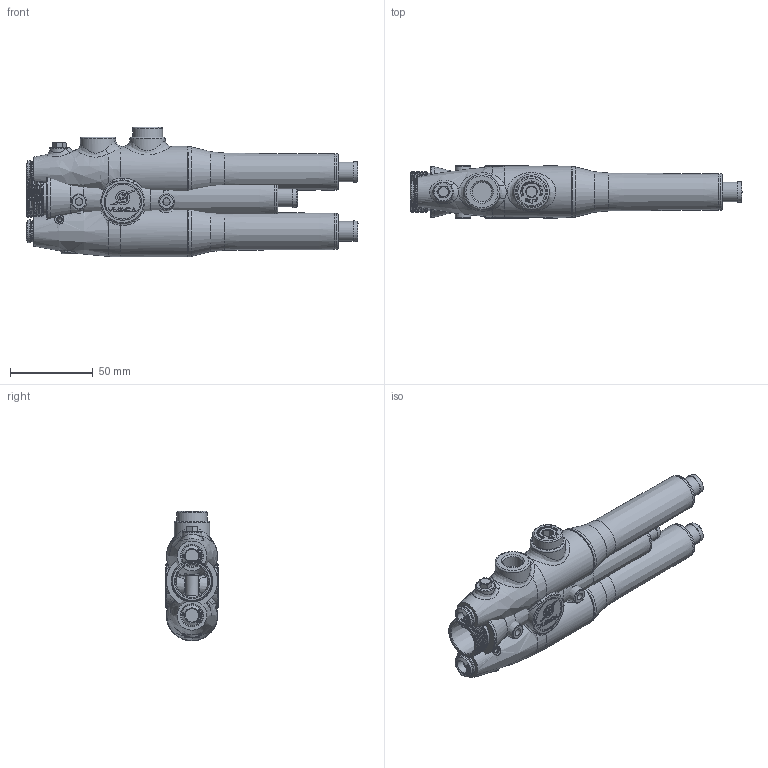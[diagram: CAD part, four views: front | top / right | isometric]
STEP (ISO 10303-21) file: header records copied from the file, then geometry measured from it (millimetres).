
FILE_DESCRIPTION( ( 'Unknown' ), '1' );
FILE_NAME( 'X:/±è¿µ¿î/Green Pump/VC253 Pump-6/GH53F-DIM.stp', 'Unknown', ( 'Unknown' ), ( 'Unknown' ), 'PSStep 10.0', 'Unknown', ' ' );
FILE_SCHEMA( ( 'AUTOMOTIVE_DESIGN { 1 0 10303 214 1 1 1 1 }' ) );
Length unit declared in the file: millimetre
Products named in the file (9): Filter-ass'y-(DIM)asm; Assem1; Silencer Cover-253(Åõã; Silencer Cover End Cap-253(癱; cartridge fitting(8); M5-Plug; Logo cover(253); Body(Double)-253-DIM; Plug14_New_PPS(dim)
Bounding box: 201.2 x 32 x 78.7 mm (x, y, z)
Volume: 318325.8 mm3; surface area: 139469.8 mm2
Topology: 20 solids, 24 shells, 2085 faces, 4949 edges, 3161 vertices
Faces by surface type: plane 879, bspline 407, cylinder 366, cone 186, torus 143, extrusion 54, sphere 48, revolution 2
Full cylindrical faces by diameter (mm): 0.681 x2, 0.858 x3, 1.565 x8, 2.505 x8, 2.8 x4, 3.2 x2, 4 x2, 4.2 x4, 4.5 x4, 5 x2, 8.2 x3, 9 x4, 10 x3, 10.1 x3, 11.4 x4, 11.9 x7, 12 x4, 12.1 x13, 12.4 x4, 14 x3, 16.5 x2, 18.2 x2, 19 x20, 21.1 x3, 21.475 x4, 22 x4, 22.5 x11, 23.5 x4, 25.2 x4, 31 x8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
Entity records: 49905 total; most frequent: CARTESIAN_POINT 26084, ORIENTED_EDGE 3626, DIRECTION 3037, EDGE_CURVE 1813, VERTEX_POINT 1238, EDGE_LOOP 1093, AXIS2_PLACEMENT_3D 1091, FACE_OUTER_BOUND 940
